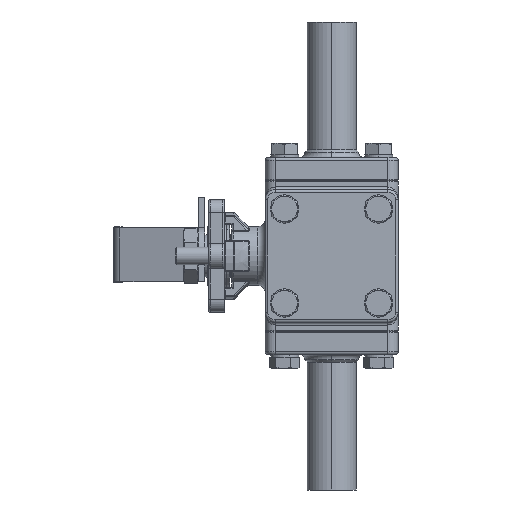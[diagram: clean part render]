
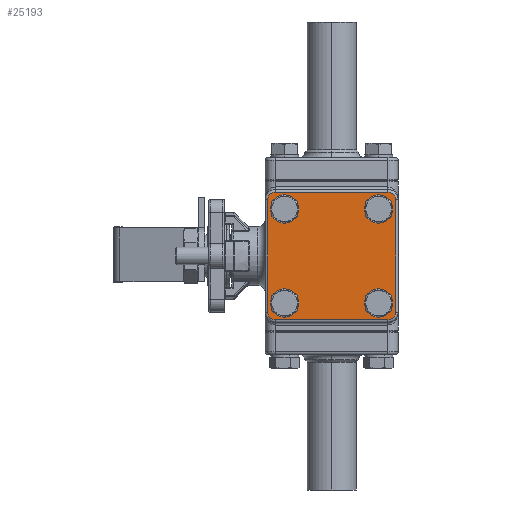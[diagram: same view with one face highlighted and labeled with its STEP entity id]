
A CAD part, left-side view. The second image highlights one B-rep face of the part: STEP entity #25193.
In plain terms, the highlighted planar face has unit normal (-1, 0, 0) as drawn and (0, 0, 1) by its records, which use the part's own axes.
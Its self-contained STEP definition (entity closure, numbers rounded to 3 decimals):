
#129 = CARTESIAN_POINT ( 'NONE',  ( -22., 25., 5. ) ) ;
#394 = CARTESIAN_POINT ( 'NONE',  ( 22., 22., 5. ) ) ;
#441 = ORIENTED_EDGE ( 'NONE', *, *, #7584, .T. ) ;
#642 = CARTESIAN_POINT ( 'NONE',  ( -14.635, -18.385, 5. ) ) ;
#1461 = EDGE_CURVE ( 'NONE', #21565, #22527, #3845, .T. ) ;
#1475 = DIRECTION ( 'NONE',  ( 0., 0., 1. ) ) ;
#1478 = EDGE_CURVE ( 'NONE', #1506, #20730, #16932, .T. ) ;
#1506 = VERTEX_POINT ( 'NONE', #22384 ) ;
#1811 = CIRCLE ( 'NONE', #10858, 3. ) ;
#1862 = DIRECTION ( 'NONE',  ( 1., 0., 0. ) ) ;
#1970 = DIRECTION ( 'NONE',  ( 0., 0., 1. ) ) ;
#2016 = CARTESIAN_POINT ( 'NONE',  ( -22., 22., 5. ) ) ;
#2532 = ORIENTED_EDGE ( 'NONE', *, *, #17844, .F. ) ;
#2596 = CIRCLE ( 'NONE', #8056, 3.75 ) ;
#2713 = DIRECTION ( 'NONE',  ( 1., 0., 0. ) ) ;
#2715 = CARTESIAN_POINT ( 'NONE',  ( 22., -25., 5. ) ) ;
#3845 = LINE ( 'NONE', #24674, #30813 ) ;
#3895 = DIRECTION ( 'NONE',  ( 0., -1., 0. ) ) ;
#4078 = ORIENTED_EDGE ( 'NONE', *, *, #9171, .T. ) ;
#4131 = DIRECTION ( 'NONE',  ( -1., 0., 0. ) ) ;
#4238 = CARTESIAN_POINT ( 'NONE',  ( 18.385, 18.385, 5. ) ) ;
#4240 = ORIENTED_EDGE ( 'NONE', *, *, #13060, .F. ) ;
#4260 = CARTESIAN_POINT ( 'NONE',  ( 22., -22., 5. ) ) ;
#4349 = CARTESIAN_POINT ( 'NONE',  ( 18.385, 18.385, 5. ) ) ;
#4489 = EDGE_CURVE ( 'NONE', #20730, #31332, #22105, .T. ) ;
#4876 = VERTEX_POINT ( 'NONE', #5780 ) ;
#4954 = CARTESIAN_POINT ( 'NONE',  ( -22.135, -18.385, 5. ) ) ;
#5456 = CARTESIAN_POINT ( 'NONE',  ( -18.385, -18.385, 5. ) ) ;
#5780 = CARTESIAN_POINT ( 'NONE',  ( 14.635, -18.385, 5. ) ) ;
#5907 = CARTESIAN_POINT ( 'NONE',  ( -25., -22., 5. ) ) ;
#5970 = CIRCLE ( 'NONE', #8603, 3.75 ) ;
#6067 = ORIENTED_EDGE ( 'NONE', *, *, #1478, .T. ) ;
#6671 = CIRCLE ( 'NONE', #21594, 3.75 ) ;
#6885 = VERTEX_POINT ( 'NONE', #4954 ) ;
#6971 = DIRECTION ( 'NONE',  ( 0., 0., 1. ) ) ;
#6999 = DIRECTION ( 'NONE',  ( 0., 0., 1. ) ) ;
#7050 = LINE ( 'NONE', #21505, #9531 ) ;
#7287 = CARTESIAN_POINT ( 'NONE',  ( 14.635, 18.385, 5. ) ) ;
#7584 = EDGE_CURVE ( 'NONE', #22527, #14414, #27415, .T. ) ;
#8056 = AXIS2_PLACEMENT_3D ( 'NONE', #17514, #1970, #1862 ) ;
#8603 = AXIS2_PLACEMENT_3D ( 'NONE', #10524, #28758, #13155 ) ;
#8618 = AXIS2_PLACEMENT_3D ( 'NONE', #2016, #20293, #18322 ) ;
#9031 = EDGE_LOOP ( 'NONE', ( #4240, #16842 ) ) ;
#9156 = CIRCLE ( 'NONE', #22699, 3.75 ) ;
#9171 = EDGE_CURVE ( 'NONE', #19026, #21565, #31354, .T. ) ;
#9486 = AXIS2_PLACEMENT_3D ( 'NONE', #4238, #27988, #25148 ) ;
#9531 = VECTOR ( 'NONE', #30184, 1000. ) ;
#9647 = CARTESIAN_POINT ( 'NONE',  ( 22.135, 18.385, 5. ) ) ;
#9972 = EDGE_CURVE ( 'NONE', #16999, #4876, #21976, .T. ) ;
#10309 = ORIENTED_EDGE ( 'NONE', *, *, #13304, .F. ) ;
#10336 = ORIENTED_EDGE ( 'NONE', *, *, #21633, .T. ) ;
#10524 = CARTESIAN_POINT ( 'NONE',  ( 18.385, -18.385, 5. ) ) ;
#10599 = CARTESIAN_POINT ( 'NONE',  ( -22., -22., 5. ) ) ;
#10631 = ORIENTED_EDGE ( 'NONE', *, *, #27630, .T. ) ;
#10858 = AXIS2_PLACEMENT_3D ( 'NONE', #24411, #31827, #29561 ) ;
#10914 = AXIS2_PLACEMENT_3D ( 'NONE', #5456, #23713, #2713 ) ;
#10923 = VERTEX_POINT ( 'NONE', #9647 ) ;
#11187 = CARTESIAN_POINT ( 'NONE',  ( -14.635, 18.385, 5. ) ) ;
#11347 = CARTESIAN_POINT ( 'NONE',  ( 25., 22., 5. ) ) ;
#11784 = AXIS2_PLACEMENT_3D ( 'NONE', #14733, #30688, #30801 ) ;
#11839 = VERTEX_POINT ( 'NONE', #20121 ) ;
#12366 = DIRECTION ( 'NONE',  ( 1., 0., 0. ) ) ;
#12627 = EDGE_LOOP ( 'NONE', ( #2532, #33430 ) ) ;
#13060 = EDGE_CURVE ( 'NONE', #11839, #20779, #9156, .T. ) ;
#13131 = EDGE_CURVE ( 'NONE', #10923, #20117, #6671, .T. ) ;
#13155 = DIRECTION ( 'NONE',  ( 1., 0., 0. ) ) ;
#13304 = EDGE_CURVE ( 'NONE', #6885, #26961, #29970, .T. ) ;
#13418 = CIRCLE ( 'NONE', #9486, 3.75 ) ;
#13600 = EDGE_LOOP ( 'NONE', ( #6067, #23566, #10631, #4078, #17530, #441, #10336, #26506 ) ) ;
#13604 = EDGE_CURVE ( 'NONE', #20779, #11839, #2596, .T. ) ;
#13623 = FACE_BOUND ( 'NONE', #9031, .T. ) ;
#14414 = VERTEX_POINT ( 'NONE', #28619 ) ;
#14733 = CARTESIAN_POINT ( 'NONE',  ( -18.385, -18.385, 5. ) ) ;
#16818 = DIRECTION ( 'NONE',  ( 1., 0., 0. ) ) ;
#16842 = ORIENTED_EDGE ( 'NONE', *, *, #13604, .F. ) ;
#16932 = LINE ( 'NONE', #11347, #29987 ) ;
#16999 = VERTEX_POINT ( 'NONE', #21831 ) ;
#17077 = EDGE_CURVE ( 'NONE', #20117, #10923, #13418, .T. ) ;
#17156 = CARTESIAN_POINT ( 'NONE',  ( -18.385, 18.385, 5. ) ) ;
#17459 = AXIS2_PLACEMENT_3D ( 'NONE', #394, #28613, #20880 ) ;
#17514 = CARTESIAN_POINT ( 'NONE',  ( -18.385, 18.385, 5. ) ) ;
#17530 = ORIENTED_EDGE ( 'NONE', *, *, #1461, .T. ) ;
#17844 = EDGE_CURVE ( 'NONE', #4876, #16999, #5970, .T. ) ;
#17886 = EDGE_LOOP ( 'NONE', ( #30938, #29882 ) ) ;
#18322 = DIRECTION ( 'NONE',  ( 1., 0., 0. ) ) ;
#18332 = DIRECTION ( 'NONE',  ( 0., 0., 1. ) ) ;
#19026 = VERTEX_POINT ( 'NONE', #129 ) ;
#19745 = ORIENTED_EDGE ( 'NONE', *, *, #32021, .F. ) ;
#19861 = EDGE_CURVE ( 'NONE', #22362, #1506, #1811, .T. ) ;
#20117 = VERTEX_POINT ( 'NONE', #7287 ) ;
#20121 = CARTESIAN_POINT ( 'NONE',  ( -22.135, 18.385, 5. ) ) ;
#20159 = AXIS2_PLACEMENT_3D ( 'NONE', #10599, #18332, #21207 ) ;
#20293 = DIRECTION ( 'NONE',  ( 0., 0., 1. ) ) ;
#20553 = FACE_BOUND ( 'NONE', #12627, .T. ) ;
#20730 = VERTEX_POINT ( 'NONE', #33776 ) ;
#20779 = VERTEX_POINT ( 'NONE', #11187 ) ;
#20880 = DIRECTION ( 'NONE',  ( 1., 0., 0. ) ) ;
#21207 = DIRECTION ( 'NONE',  ( 1., 0., 0. ) ) ;
#21462 = CARTESIAN_POINT ( 'NONE',  ( 22., 25., 5. ) ) ;
#21505 = CARTESIAN_POINT ( 'NONE',  ( 22., -25., 5. ) ) ;
#21565 = VERTEX_POINT ( 'NONE', #31884 ) ;
#21594 = AXIS2_PLACEMENT_3D ( 'NONE', #4349, #6999, #12366 ) ;
#21633 = EDGE_CURVE ( 'NONE', #14414, #22362, #7050, .T. ) ;
#21831 = CARTESIAN_POINT ( 'NONE',  ( 22.135, -18.385, 5. ) ) ;
#21976 = CIRCLE ( 'NONE', #29406, 3.75 ) ;
#22105 = CIRCLE ( 'NONE', #17459, 3. ) ;
#22362 = VERTEX_POINT ( 'NONE', #2715 ) ;
#22384 = CARTESIAN_POINT ( 'NONE',  ( 25., -22., 5. ) ) ;
#22527 = VERTEX_POINT ( 'NONE', #5907 ) ;
#22532 = DIRECTION ( 'NONE',  ( 1., 0., 0. ) ) ;
#22583 = CARTESIAN_POINT ( 'NONE',  ( 18.385, -18.385, 5. ) ) ;
#22699 = AXIS2_PLACEMENT_3D ( 'NONE', #17156, #1475, #16818 ) ;
#23566 = ORIENTED_EDGE ( 'NONE', *, *, #4489, .T. ) ;
#23713 = DIRECTION ( 'NONE',  ( 0., 0., 1. ) ) ;
#24411 = CARTESIAN_POINT ( 'NONE',  ( 22., -22., 5. ) ) ;
#24674 = CARTESIAN_POINT ( 'NONE',  ( -25., -22., 5. ) ) ;
#24805 = CARTESIAN_POINT ( 'NONE',  ( -22., 25., 5. ) ) ;
#25118 = CIRCLE ( 'NONE', #11784, 3.75 ) ;
#25148 = DIRECTION ( 'NONE',  ( 1., 0., 0. ) ) ;
#25193 = ADVANCED_FACE ( 'NONE', ( #32367, #30741, #27488, #20553, #13623 ), #32789, .T. ) ;
#25224 = AXIS2_PLACEMENT_3D ( 'NONE', #4260, #27542, #22532 ) ;
#26506 = ORIENTED_EDGE ( 'NONE', *, *, #19861, .T. ) ;
#26961 = VERTEX_POINT ( 'NONE', #642 ) ;
#27415 = CIRCLE ( 'NONE', #20159, 3. ) ;
#27488 = FACE_BOUND ( 'NONE', #17886, .T. ) ;
#27542 = DIRECTION ( 'NONE',  ( 0., 0., 1. ) ) ;
#27630 = EDGE_CURVE ( 'NONE', #31332, #19026, #32627, .T. ) ;
#27988 = DIRECTION ( 'NONE',  ( 0., 0., 1. ) ) ;
#28613 = DIRECTION ( 'NONE',  ( 0., 0., 1. ) ) ;
#28619 = CARTESIAN_POINT ( 'NONE',  ( -22., -25., 5. ) ) ;
#28758 = DIRECTION ( 'NONE',  ( 0., 0., 1. ) ) ;
#29406 = AXIS2_PLACEMENT_3D ( 'NONE', #22583, #6971, #30468 ) ;
#29561 = DIRECTION ( 'NONE',  ( 1., 0., 0. ) ) ;
#29818 = DIRECTION ( 'NONE',  ( 0., 1., 0. ) ) ;
#29882 = ORIENTED_EDGE ( 'NONE', *, *, #13131, .F. ) ;
#29970 = CIRCLE ( 'NONE', #10914, 3.75 ) ;
#29987 = VECTOR ( 'NONE', #29818, 1000. ) ;
#30184 = DIRECTION ( 'NONE',  ( 1., 0., 0. ) ) ;
#30316 = EDGE_LOOP ( 'NONE', ( #10309, #19745 ) ) ;
#30468 = DIRECTION ( 'NONE',  ( 1., 0., 0. ) ) ;
#30688 = DIRECTION ( 'NONE',  ( 0., 0., 1. ) ) ;
#30741 = FACE_BOUND ( 'NONE', #30316, .T. ) ;
#30801 = DIRECTION ( 'NONE',  ( 1., 0., 0. ) ) ;
#30813 = VECTOR ( 'NONE', #3895, 1000. ) ;
#30938 = ORIENTED_EDGE ( 'NONE', *, *, #17077, .F. ) ;
#31332 = VERTEX_POINT ( 'NONE', #21462 ) ;
#31354 = CIRCLE ( 'NONE', #8618, 3. ) ;
#31793 = VECTOR ( 'NONE', #4131, 1000. ) ;
#31827 = DIRECTION ( 'NONE',  ( 0., 0., 1. ) ) ;
#31884 = CARTESIAN_POINT ( 'NONE',  ( -25., 22., 5. ) ) ;
#32021 = EDGE_CURVE ( 'NONE', #26961, #6885, #25118, .T. ) ;
#32367 = FACE_OUTER_BOUND ( 'NONE', #13600, .T. ) ;
#32627 = LINE ( 'NONE', #24805, #31793 ) ;
#32789 = PLANE ( 'NONE',  #25224 ) ;
#33430 = ORIENTED_EDGE ( 'NONE', *, *, #9972, .F. ) ;
#33776 = CARTESIAN_POINT ( 'NONE',  ( 25., 22., 5. ) ) ;
